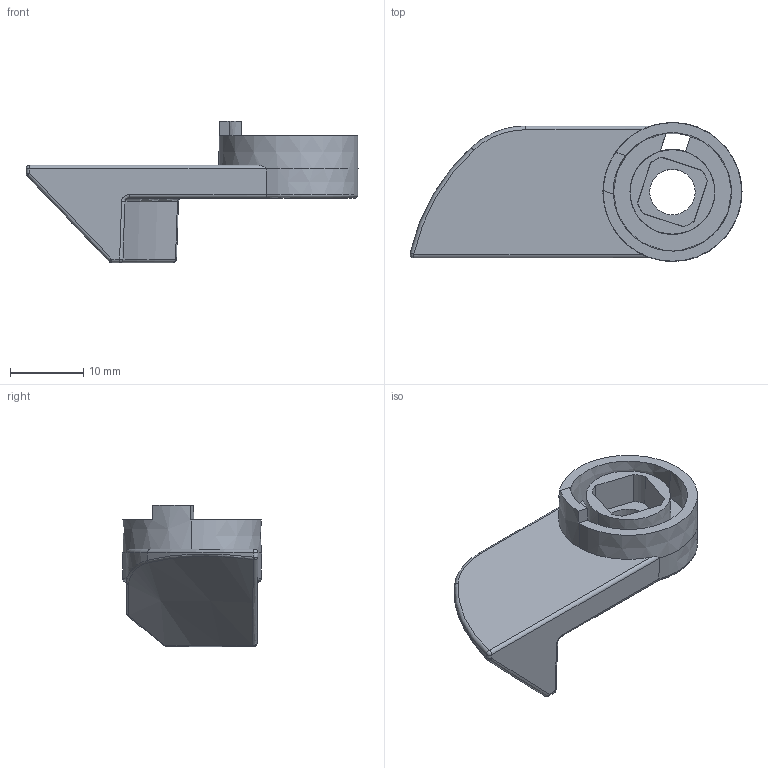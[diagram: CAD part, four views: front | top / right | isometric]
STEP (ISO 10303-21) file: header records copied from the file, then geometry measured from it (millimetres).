
FILE_DESCRIPTION (( 'STEP AP214' ), '1' );
FILE_NAME ('JZ-3522L.STEP', '2012-04-02T14:09:19', ( 'lukasz' ), ( 'ATC' ), 'SwSTEP 2.0', 'SolidWorks 2010', '' );
FILE_SCHEMA (( 'AUTOMOTIVE_DESIGN' ));
Length unit declared in the file: millimetre
Products named in the file (1): JZ-3522L
Bounding box: 45.35 x 19.01 x 19.3 mm (x, y, z)
Volume: 4195.9 mm3; surface area: 2975.4 mm2
Topology: 1 solids, 1 shells, 74 faces, 180 edges, 108 vertices
Faces by surface type: plane 19, cone 16, bspline 14, cylinder 9, torus 8, sphere 8
Entity records: 2933 total; most frequent: CARTESIAN_POINT 1249, ORIENTED_EDGE 356, DIRECTION 334, EDGE_CURVE 178, AXIS2_PLACEMENT_3D 147, VERTEX_POINT 107, CIRCLE 86, EDGE_LOOP 79
